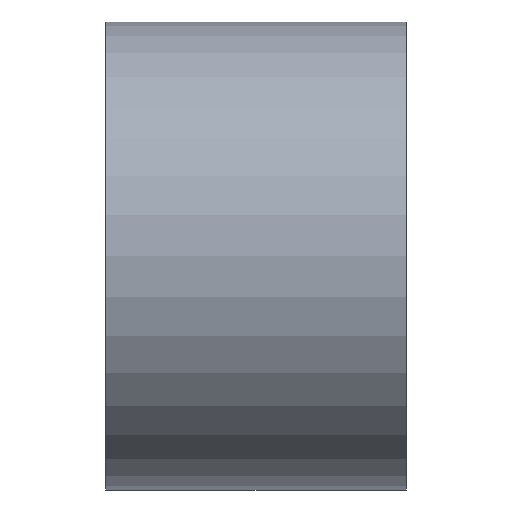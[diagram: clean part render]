
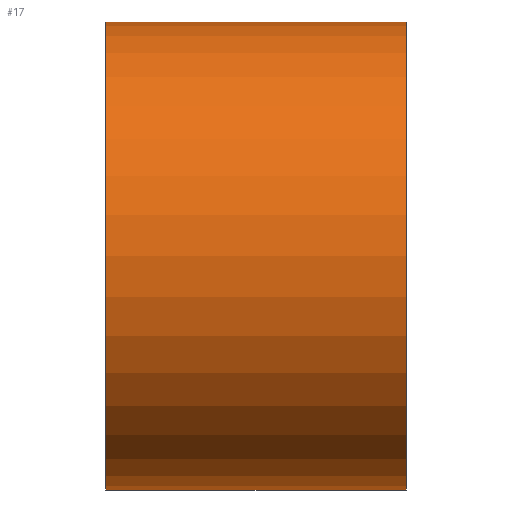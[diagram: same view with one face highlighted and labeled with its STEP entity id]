
A CAD part, front view. The second image highlights one B-rep face of the part: STEP entity #17.
In plain terms, the highlighted cylindrical face has radius 38.1 mm (diameter 76.2 mm), a full revolution.
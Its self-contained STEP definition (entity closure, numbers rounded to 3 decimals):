
#17 = ADVANCED_FACE('',(#18),#32,.T.);
#18 = FACE_BOUND('',#19,.F.);
#19 = EDGE_LOOP('',(#20,#50,#77,#78));
#20 = ORIENTED_EDGE('',*,*,#21,.T.);
#21 = EDGE_CURVE('',#22,#24,#26,.T.);
#22 = VERTEX_POINT('',#23);
#23 = CARTESIAN_POINT('',(-20.5,38.1,0.));
#24 = VERTEX_POINT('',#25);
#25 = CARTESIAN_POINT('',(28.5,38.1,0.));
#26 = SEAM_CURVE('',#27,(#31,#43),.PCURVE_S1.);
#27 = LINE('',#28,#29);
#28 = CARTESIAN_POINT('',(-20.5,38.1,0.));
#29 = VECTOR('',#30,1.);
#30 = DIRECTION('',(1.,0.,0.));
#31 = PCURVE('',#32,#37);
#32 = CYLINDRICAL_SURFACE('',#33,38.1);
#33 = AXIS2_PLACEMENT_3D('',#34,#35,#36);
#34 = CARTESIAN_POINT('',(-20.5,0.,0.));
#35 = DIRECTION('',(-1.,-0.,-0.));
#36 = DIRECTION('',(0.,1.,0.));
#37 = DEFINITIONAL_REPRESENTATION('',(#38),#42);
#38 = LINE('',#39,#40);
#39 = CARTESIAN_POINT('',(-0.,0.));
#40 = VECTOR('',#41,1.);
#41 = DIRECTION('',(-0.,-1.));
#42 = ( GEOMETRIC_REPRESENTATION_CONTEXT(2) 
PARAMETRIC_REPRESENTATION_CONTEXT() REPRESENTATION_CONTEXT('2D SPACE',''
  ) );
#43 = PCURVE('',#32,#44);
#44 = DEFINITIONAL_REPRESENTATION('',(#45),#49);
#45 = LINE('',#46,#47);
#46 = CARTESIAN_POINT('',(-6.283,0.));
#47 = VECTOR('',#48,1.);
#48 = DIRECTION('',(-0.,-1.));
#49 = ( GEOMETRIC_REPRESENTATION_CONTEXT(2) 
PARAMETRIC_REPRESENTATION_CONTEXT() REPRESENTATION_CONTEXT('2D SPACE',''
  ) );
#50 = ORIENTED_EDGE('',*,*,#51,.T.);
#51 = EDGE_CURVE('',#24,#24,#52,.T.);
#52 = SURFACE_CURVE('',#53,(#58,#65),.PCURVE_S1.);
#53 = CIRCLE('',#54,38.1);
#54 = AXIS2_PLACEMENT_3D('',#55,#56,#57);
#55 = CARTESIAN_POINT('',(28.5,0.,0.));
#56 = DIRECTION('',(1.,0.,0.));
#57 = DIRECTION('',(0.,1.,0.));
#58 = PCURVE('',#32,#59);
#59 = DEFINITIONAL_REPRESENTATION('',(#60),#64);
#60 = LINE('',#61,#62);
#61 = CARTESIAN_POINT('',(-0.,-49.));
#62 = VECTOR('',#63,1.);
#63 = DIRECTION('',(-1.,0.));
#64 = ( GEOMETRIC_REPRESENTATION_CONTEXT(2) 
PARAMETRIC_REPRESENTATION_CONTEXT() REPRESENTATION_CONTEXT('2D SPACE',''
  ) );
#65 = PCURVE('',#66,#71);
#66 = PLANE('',#67);
#67 = AXIS2_PLACEMENT_3D('',#68,#69,#70);
#68 = CARTESIAN_POINT('',(28.5,0.,0.));
#69 = DIRECTION('',(1.,0.,0.));
#70 = DIRECTION('',(-0.,0.,1.));
#71 = DEFINITIONAL_REPRESENTATION('',(#72),#76);
#72 = CIRCLE('',#73,38.1);
#73 = AXIS2_PLACEMENT_2D('',#74,#75);
#74 = CARTESIAN_POINT('',(0.,0.));
#75 = DIRECTION('',(0.,-1.));
#76 = ( GEOMETRIC_REPRESENTATION_CONTEXT(2) 
PARAMETRIC_REPRESENTATION_CONTEXT() REPRESENTATION_CONTEXT('2D SPACE',''
  ) );
#77 = ORIENTED_EDGE('',*,*,#21,.F.);
#78 = ORIENTED_EDGE('',*,*,#79,.F.);
#79 = EDGE_CURVE('',#22,#22,#80,.T.);
#80 = SURFACE_CURVE('',#81,(#86,#93),.PCURVE_S1.);
#81 = CIRCLE('',#82,38.1);
#82 = AXIS2_PLACEMENT_3D('',#83,#84,#85);
#83 = CARTESIAN_POINT('',(-20.5,0.,0.));
#84 = DIRECTION('',(1.,0.,0.));
#85 = DIRECTION('',(0.,1.,0.));
#86 = PCURVE('',#32,#87);
#87 = DEFINITIONAL_REPRESENTATION('',(#88),#92);
#88 = LINE('',#89,#90);
#89 = CARTESIAN_POINT('',(-0.,0.));
#90 = VECTOR('',#91,1.);
#91 = DIRECTION('',(-1.,0.));
#92 = ( GEOMETRIC_REPRESENTATION_CONTEXT(2) 
PARAMETRIC_REPRESENTATION_CONTEXT() REPRESENTATION_CONTEXT('2D SPACE',''
  ) );
#93 = PCURVE('',#94,#99);
#94 = PLANE('',#95);
#95 = AXIS2_PLACEMENT_3D('',#96,#97,#98);
#96 = CARTESIAN_POINT('',(-20.5,0.,0.)
  );
#97 = DIRECTION('',(1.,0.,0.));
#98 = DIRECTION('',(-0.,0.,1.));
#99 = DEFINITIONAL_REPRESENTATION('',(#100),#104);
#100 = CIRCLE('',#101,38.1);
#101 = AXIS2_PLACEMENT_2D('',#102,#103);
#102 = CARTESIAN_POINT('',(0.,0.));
#103 = DIRECTION('',(0.,-1.));
#104 = ( GEOMETRIC_REPRESENTATION_CONTEXT(2) 
PARAMETRIC_REPRESENTATION_CONTEXT() REPRESENTATION_CONTEXT('2D SPACE',''
  ) );
